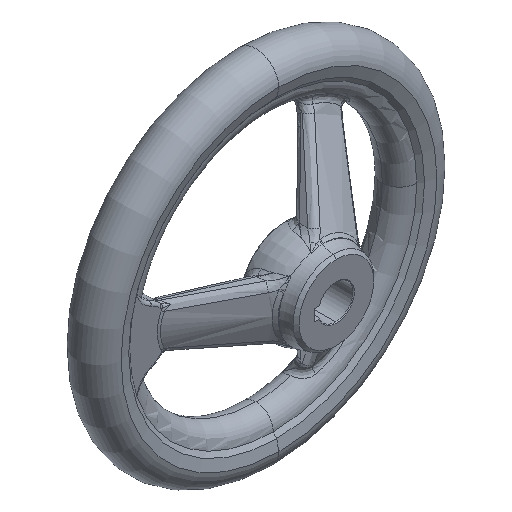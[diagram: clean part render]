
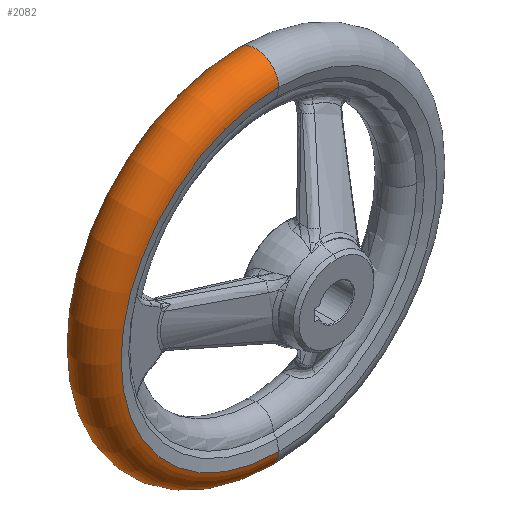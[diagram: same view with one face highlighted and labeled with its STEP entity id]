
A CAD part, isometric view. The second image highlights one B-rep face of the part: STEP entity #2082.
In plain terms, the highlighted toroidal (fillet/blend) face has major radius 54.483 mm and minor radius 8.017 mm.
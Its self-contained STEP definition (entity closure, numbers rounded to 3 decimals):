
#374 = AXIS2_PLACEMENT_3D ( 'NONE', #2376, #8118, #3225 ) ;
#508 = DIRECTION ( 'NONE',  ( 0., -1., 0. ) ) ;
#880 = CARTESIAN_POINT ( 'NONE',  ( 0., 20., -55. ) ) ;
#991 = EDGE_CURVE ( 'NONE', #2213, #8466, #5176, .T. ) ;
#1134 = VERTEX_POINT ( 'NONE', #2221 ) ;
#1388 = CARTESIAN_POINT ( 'NONE',  ( 0., 28., -54.483 ) ) ;
#1705 = CARTESIAN_POINT ( 'NONE',  ( 0., 36., -55. ) ) ;
#1764 = CIRCLE ( 'NONE', #7379, 55. ) ;
#1825 = VERTEX_POINT ( 'NONE', #7792 ) ;
#2082 = ADVANCED_FACE ( 'NONE', ( #2323 ), #8610, .T. ) ;
#2136 = EDGE_LOOP ( 'NONE', ( #6496, #3874, #3150, #3488 ) ) ;
#2193 = DIRECTION ( 'NONE',  ( 0., 0., 1. ) ) ;
#2213 = VERTEX_POINT ( 'NONE', #1705 ) ;
#2221 = CARTESIAN_POINT ( 'NONE',  ( 0., 36., 55. ) ) ;
#2323 = FACE_OUTER_BOUND ( 'NONE', #2136, .T. ) ;
#2376 = CARTESIAN_POINT ( 'NONE',  ( 0., 20., 0. ) ) ;
#2522 = CIRCLE ( 'NONE', #374, 55. ) ;
#3150 = ORIENTED_EDGE ( 'NONE', *, *, #991, .T. ) ;
#3225 = DIRECTION ( 'NONE',  ( 0., 0., -1. ) ) ;
#3443 = AXIS2_PLACEMENT_3D ( 'NONE', #3556, #9266, #4376 ) ;
#3488 = ORIENTED_EDGE ( 'NONE', *, *, #7902, .F. ) ;
#3556 = CARTESIAN_POINT ( 'NONE',  ( 0., 28., 54.483 ) ) ;
#3874 = ORIENTED_EDGE ( 'NONE', *, *, #6509, .T. ) ;
#4376 = DIRECTION ( 'NONE',  ( 0., 0., -1. ) ) ;
#4912 = AXIS2_PLACEMENT_3D ( 'NONE', #8468, #6901, #6131 ) ;
#5176 = CIRCLE ( 'NONE', #8121, 8.017 ) ;
#5419 = CARTESIAN_POINT ( 'NONE',  ( 0., 36., 0. ) ) ;
#5996 = EDGE_CURVE ( 'NONE', #1134, #1825, #9854, .T. ) ;
#6131 = DIRECTION ( 'NONE',  ( 0., 0., -1. ) ) ;
#6214 = DIRECTION ( 'NONE',  ( 0., 0., -1. ) ) ;
#6496 = ORIENTED_EDGE ( 'NONE', *, *, #5996, .F. ) ;
#6509 = EDGE_CURVE ( 'NONE', #1134, #2213, #1764, .T. ) ;
#6901 = DIRECTION ( 'NONE',  ( 0., -1., 0. ) ) ;
#7090 = DIRECTION ( 'NONE',  ( -1., 0., 0. ) ) ;
#7379 = AXIS2_PLACEMENT_3D ( 'NONE', #5419, #508, #6214 ) ;
#7792 = CARTESIAN_POINT ( 'NONE',  ( 0., 20., 55. ) ) ;
#7902 = EDGE_CURVE ( 'NONE', #1825, #8466, #2522, .T. ) ;
#8118 = DIRECTION ( 'NONE',  ( 0., -1., 0. ) ) ;
#8121 = AXIS2_PLACEMENT_3D ( 'NONE', #1388, #7090, #2193 ) ;
#8466 = VERTEX_POINT ( 'NONE', #880 ) ;
#8468 = CARTESIAN_POINT ( 'NONE',  ( 0., 28., 0. ) ) ;
#8610 = TOROIDAL_SURFACE ( 'NONE', #4912, 54.483, 8.017 ) ;
#9266 = DIRECTION ( 'NONE',  ( 1., 0., 0. ) ) ;
#9854 = CIRCLE ( 'NONE', #3443, 8.017 ) ;
